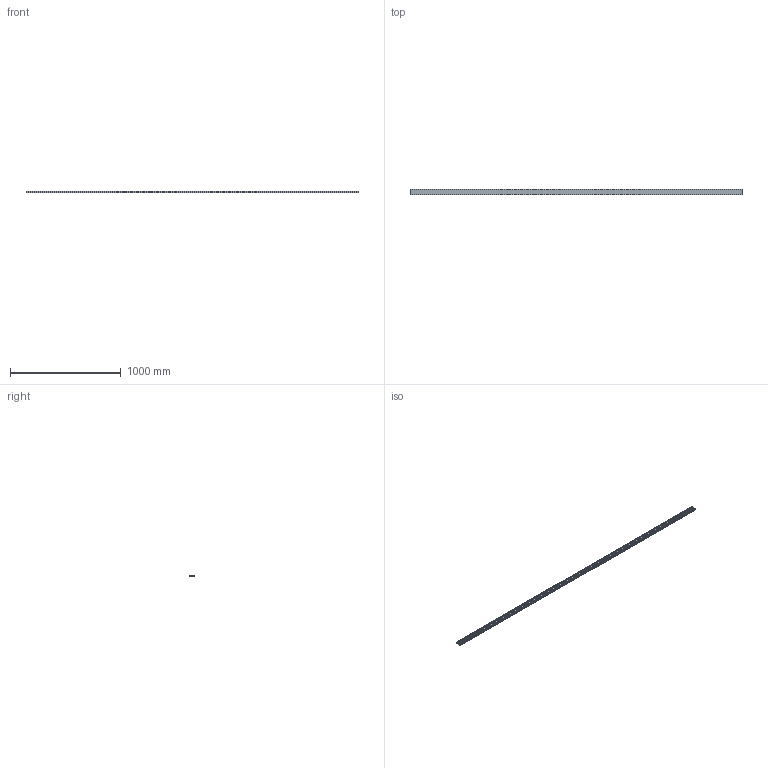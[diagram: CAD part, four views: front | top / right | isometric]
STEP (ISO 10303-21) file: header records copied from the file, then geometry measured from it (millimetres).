
FILE_DESCRIPTION (( 'STEP AP203' ), '1' );
FILE_NAME ('17.M07H30000 M7H.STEP', '2025-08-02T02:48:28', ( '' ), ( '' ), 'SwSTEP 2.0', 'SolidWorks 2020', '' );
FILE_SCHEMA (( 'CONFIG_CONTROL_DESIGN' ));
Length unit declared in the file: millimetre
Products named in the file (4): KC-0006-0041.stp; KC-0006-0002.stp; 17.M07H30000 M7H; KC-0006-0003.stp
Assembly tree (5 placements, depth 2):
  17.M07H30000 M7H
    KC-0006-0041.stp
    KC-0006-0002.stp  x2
    KC-0006-0003.stp  x2
Bounding box: 3000 x 50 x 12.5 mm (x, y, z)
Volume: 794093.6 mm3; surface area: 1150121 mm2
Topology: 13 solids, 13 shells, 197 faces, 516 edges, 344 vertices
Faces by surface type: plane 159, cylinder 38
Entity records: 4900 total; most frequent: CARTESIAN_POINT 789, ORIENTED_EDGE 768, DIRECTION 750, EDGE_CURVE 384, LINE 316, VECTOR 316, VERTEX_POINT 256, AXIS2_PLACEMENT_3D 217
